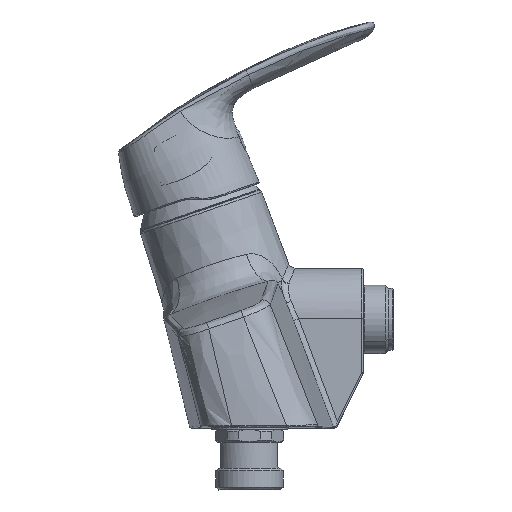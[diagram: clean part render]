
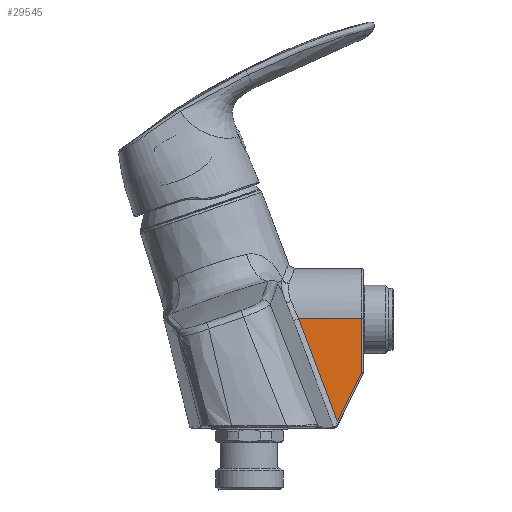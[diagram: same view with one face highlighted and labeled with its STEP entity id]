
A CAD part, left-side view. The second image highlights one B-rep face of the part: STEP entity #29545.
In plain terms, the highlighted planar face has unit normal (-1, 0, 0.018).
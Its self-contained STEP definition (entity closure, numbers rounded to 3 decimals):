
#4363 = B_SPLINE_CURVE_WITH_KNOTS ( 'NONE', 3,
 ( #25742, #29181, #7876, #32890 ),
 .UNSPECIFIED., .F., .F.,
 ( 4, 4 ),
 ( 0., 1. ),
 .UNSPECIFIED. ) ;
#4985 = VECTOR ( 'NONE', #41483, 1000. ) ;
#5725 = EDGE_CURVE ( 'NONE', #39637, #13328, #42939, .T. ) ;
#7876 = CARTESIAN_POINT ( 'NONE',  ( -20.12, -24.362, 45.124 ) ) ;
#8955 = DIRECTION ( 'NONE',  ( 0.017, 0., 1. ) ) ;
#11145 = EDGE_CURVE ( 'NONE', #13328, #29632, #4363, .T. ) ;
#11355 = CARTESIAN_POINT ( 'NONE',  ( -19.89, 499885.839, 58.295 ) ) ;
#12092 = ORIENTED_EDGE ( 'NONE', *, *, #16327, .T. ) ;
#13328 = VERTEX_POINT ( 'NONE', #20958 ) ;
#14566 = CARTESIAN_POINT ( 'NONE',  ( -20.255, -43.379, 37.363 ) ) ;
#16327 = EDGE_CURVE ( 'NONE', #39637, #19688, #18058, .T. ) ;
#16474 = CARTESIAN_POINT ( 'NONE',  ( -20.587, -34.035, 18.384 ) ) ;
#18058 = LINE ( 'NONE', #19554, #45400 ) ;
#18191 = VECTOR ( 'NONE', #24328, 1000. ) ;
#19302 = CARTESIAN_POINT ( 'NONE',  ( -19.89, -19.012, 58.295 ) ) ;
#19554 = CARTESIAN_POINT ( 'NONE',  ( -19.89, -43.379, 58.295 ) ) ;
#19688 = VERTEX_POINT ( 'NONE', #29185 ) ;
#20712 = AXIS2_PLACEMENT_3D ( 'NONE', #11355, #43511, #22157 ) ;
#20958 = CARTESIAN_POINT ( 'NONE',  ( -20.587, -34.035, 18.384 ) ) ;
#22157 = DIRECTION ( 'NONE',  ( 0.017, 0., 1. ) ) ;
#23411 = FACE_OUTER_BOUND ( 'NONE', #43974, .T. ) ;
#24328 = DIRECTION ( 'NONE',  ( 0., -1., 0. ) ) ;
#25742 = CARTESIAN_POINT ( 'NONE',  ( -20.587, -34.035, 18.384 ) ) ;
#26651 = LINE ( 'NONE', #45497, #18191 ) ;
#29181 = CARTESIAN_POINT ( 'NONE',  ( -20.352, -29.371, 31.814 ) ) ;
#29185 = CARTESIAN_POINT ( 'NONE',  ( -19.89, -43.379, 58.295 ) ) ;
#29489 = ORIENTED_EDGE ( 'NONE', *, *, #35404, .F. ) ;
#29545 = ADVANCED_FACE ( 'NONE', ( #23411 ), #39947, .T. ) ;
#29632 = VERTEX_POINT ( 'NONE', #19302 ) ;
#32890 = CARTESIAN_POINT ( 'NONE',  ( -19.89, -19.012, 58.295 ) ) ;
#33591 = ORIENTED_EDGE ( 'NONE', *, *, #11145, .F. ) ;
#35291 = ORIENTED_EDGE ( 'NONE', *, *, #5725, .F. ) ;
#35404 = EDGE_CURVE ( 'NONE', #29632, #19688, #26651, .T. ) ;
#39637 = VERTEX_POINT ( 'NONE', #14566 ) ;
#39947 = PLANE ( 'NONE',  #20712 ) ;
#41483 = DIRECTION ( 'NONE',  ( -0.016, 0.442, -0.897 ) ) ;
#42939 = LINE ( 'NONE', #16474, #4985 ) ;
#43511 = DIRECTION ( 'NONE',  ( -1., 0., 0.017 ) ) ;
#43974 = EDGE_LOOP ( 'NONE', ( #12092, #29489, #33591, #35291 ) ) ;
#45400 = VECTOR ( 'NONE', #8955, 1000. ) ;
#45497 = CARTESIAN_POINT ( 'NONE',  ( -19.89, 499885.839, 58.295 ) ) ;
